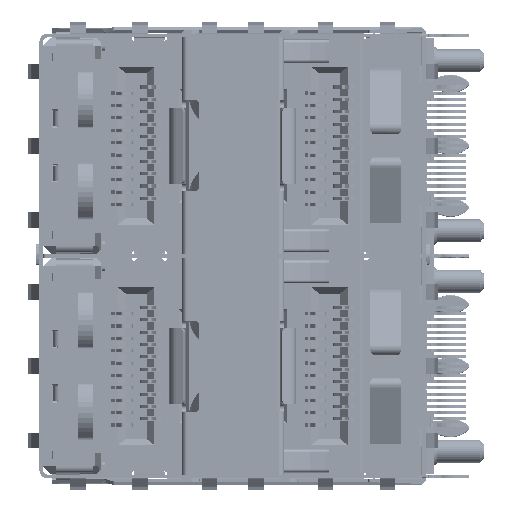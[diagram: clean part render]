
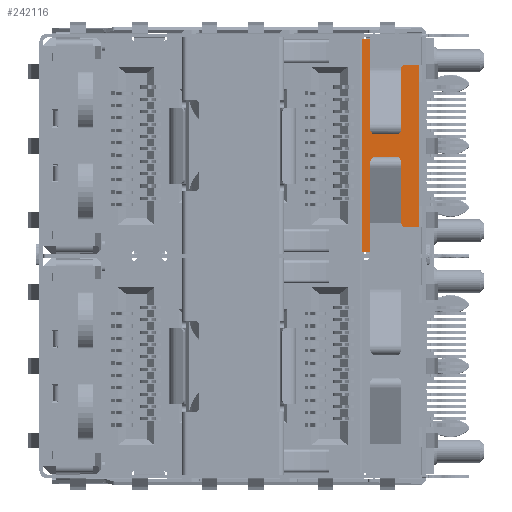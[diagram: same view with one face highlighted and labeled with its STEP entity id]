
A CAD part, left-side view. The second image highlights one B-rep face of the part: STEP entity #242116.
In plain terms, the highlighted planar face has unit normal (-1, 0, 0) as drawn and (0, 0, 1) by its records, which use the part's own axes.
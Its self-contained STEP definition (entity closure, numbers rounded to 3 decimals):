
#93399 = CARTESIAN_POINT ( 'NONE',  ( -6.87, 4.625, -9.65 ) ) ;
#93652 = CARTESIAN_POINT ( 'NONE',  ( -6.87, 2.5, -9.65 ) ) ;
#108855 = DIRECTION ( 'NONE',  ( 0., -1., 0. ) ) ;
#108913 = CARTESIAN_POINT ( 'NONE',  ( 6.87, 4.8, -9.65 ) ) ;
#109409 = DIRECTION ( 'NONE',  ( 0., -1., 0. ) ) ;
#109525 = CARTESIAN_POINT ( 'NONE',  ( -5.37, 2.5, -9.65 ) ) ;
#109655 = CARTESIAN_POINT ( 'NONE',  ( 0., 4.625, -9.65 ) ) ;
#109694 = DIRECTION ( 'NONE',  ( -1., 0., 0. ) ) ;
#112221 = VECTOR ( 'NONE', #108855, 1000. ) ;
#112324 = LINE ( 'NONE', #108913, #112221 ) ;
#112492 = VECTOR ( 'NONE', #109409, 1000. ) ;
#112601 = LINE ( 'NONE', #109525, #112492 ) ;
#112642 = LINE ( 'NONE', #181067, #112710 ) ;
#112657 = LINE ( 'NONE', #109655, #112687 ) ;
#112687 = VECTOR ( 'NONE', #109694, 1000. ) ;
#112710 = VECTOR ( 'NONE', #181209, 1000. ) ;
#112730 = LINE ( 'NONE', #181073, #112825 ) ;
#112786 = LINE ( 'NONE', #181148, #112812 ) ;
#112812 = VECTOR ( 'NONE', #181580, 1000. ) ;
#112825 = VECTOR ( 'NONE', #181196, 1000. ) ;
#123259 = CARTESIAN_POINT ( 'NONE',  ( -5.37, 2.5, -9.65 ) ) ;
#123264 = CARTESIAN_POINT ( 'NONE',  ( -5.37, 1., -9.65 ) ) ;
#123268 = CARTESIAN_POINT ( 'NONE',  ( 6.87, 2.5, -9.65 ) ) ;
#123457 = CARTESIAN_POINT ( 'NONE',  ( 6.87, 4.625, -9.65 ) ) ;
#170010 = EDGE_CURVE ( 'NONE', #192910, #193101, #251883, .T. ) ;
#171273 = EDGE_CURVE ( 'NONE', #193733, #193613, #251720, .T. ) ;
#181067 = CARTESIAN_POINT ( 'NONE',  ( -6.98, 1., -9.65 ) ) ;
#181073 = CARTESIAN_POINT ( 'NONE',  ( -5.37, 2.5, -9.65 ) ) ;
#181148 = CARTESIAN_POINT ( 'NONE',  ( 5.37, 2.5, -9.65 ) ) ;
#181196 = DIRECTION ( 'NONE',  ( -1., 0., 0. ) ) ;
#181209 = DIRECTION ( 'NONE',  ( 1., 0., 0. ) ) ;
#181580 = DIRECTION ( 'NONE',  ( -1., 0., 0. ) ) ;
#192910 = VERTEX_POINT ( 'NONE', #255943 ) ;
#193101 = VERTEX_POINT ( 'NONE', #256440 ) ;
#193613 = VERTEX_POINT ( 'NONE', #93399 ) ;
#193733 = VERTEX_POINT ( 'NONE', #93652 ) ;
#210184 = EDGE_LOOP ( 'NONE', ( #229113, #229000, #229074, #229030, #229092, #229094, #228991, #229111 ) ) ;
#210289 = FACE_OUTER_BOUND ( 'NONE', #210184, .T. ) ;
#217664 = AXIS2_PLACEMENT_3D ( 'NONE', #223531, #223513, #223444 ) ;
#223444 = DIRECTION ( 'NONE',  ( 1., 0., 0. ) ) ;
#223475 = PLANE ( 'NONE',  #217664 ) ;
#223513 = DIRECTION ( 'NONE',  ( 0., 0., 1. ) ) ;
#223531 = CARTESIAN_POINT ( 'NONE',  ( 0., 0., -9.65 ) ) ;
#226206 = EDGE_CURVE ( 'NONE', #272265, #271659, #112324, .T. ) ;
#226405 = EDGE_CURVE ( 'NONE', #271801, #271742, #112601, .T. ) ;
#226524 = EDGE_CURVE ( 'NONE', #272265, #193613, #112657, .T. ) ;
#226537 = EDGE_CURVE ( 'NONE', #271742, #193101, #112642, .T. ) ;
#226569 = EDGE_CURVE ( 'NONE', #271801, #193733, #112730, .T. ) ;
#226596 = EDGE_CURVE ( 'NONE', #271659, #192910, #112786, .T. ) ;
#228991 = ORIENTED_EDGE ( 'NONE', *, *, #171273, .F. ) ;
#229000 = ORIENTED_EDGE ( 'NONE', *, *, #226537, .T. ) ;
#229030 = ORIENTED_EDGE ( 'NONE', *, *, #226596, .F. ) ;
#229074 = ORIENTED_EDGE ( 'NONE', *, *, #170010, .F. ) ;
#229092 = ORIENTED_EDGE ( 'NONE', *, *, #226206, .F. ) ;
#229094 = ORIENTED_EDGE ( 'NONE', *, *, #226524, .T. ) ;
#229111 = ORIENTED_EDGE ( 'NONE', *, *, #226569, .F. ) ;
#229113 = ORIENTED_EDGE ( 'NONE', *, *, #226405, .T. ) ;
#242116 = ADVANCED_FACE ( 'NONE', ( #210289 ), #223475, .T. ) ;
#251720 = LINE ( 'NONE', #258846, #252013 ) ;
#251867 = VECTOR ( 'NONE', #256263, 1000. ) ;
#251883 = LINE ( 'NONE', #256255, #251867 ) ;
#252013 = VECTOR ( 'NONE', #258862, 1000. ) ;
#255943 = CARTESIAN_POINT ( 'NONE',  ( 5.37, 2.5, -9.65 ) ) ;
#256255 = CARTESIAN_POINT ( 'NONE',  ( 5.37, 2.5, -9.65 ) ) ;
#256263 = DIRECTION ( 'NONE',  ( 0., -1., 0. ) ) ;
#256440 = CARTESIAN_POINT ( 'NONE',  ( 5.37, 1., -9.65 ) ) ;
#258846 = CARTESIAN_POINT ( 'NONE',  ( -6.87, 4.8, -9.65 ) ) ;
#258862 = DIRECTION ( 'NONE',  ( 0., 1., 0. ) ) ;
#271659 = VERTEX_POINT ( 'NONE', #123268 ) ;
#271742 = VERTEX_POINT ( 'NONE', #123264 ) ;
#271801 = VERTEX_POINT ( 'NONE', #123259 ) ;
#272265 = VERTEX_POINT ( 'NONE', #123457 ) ;
